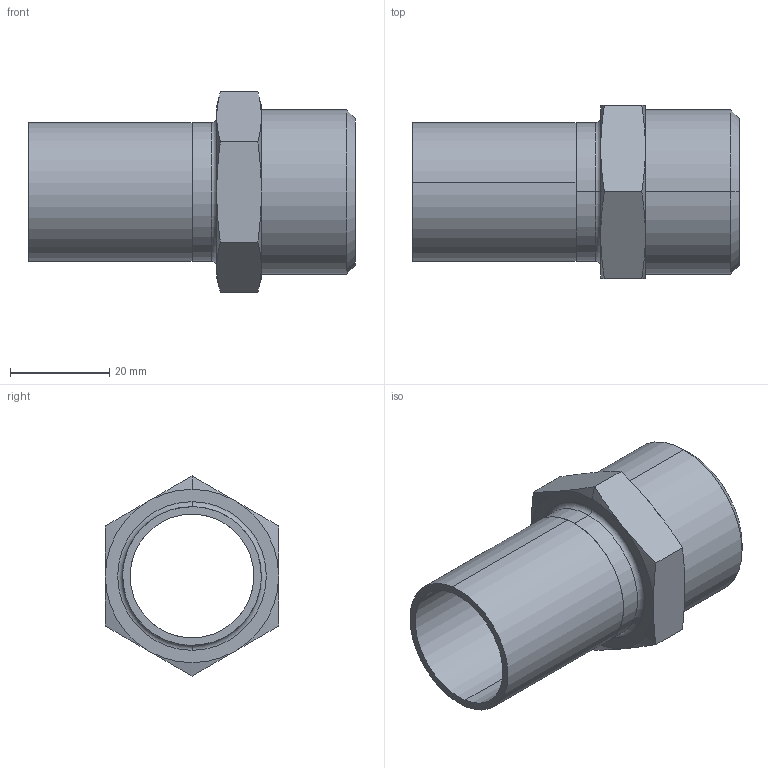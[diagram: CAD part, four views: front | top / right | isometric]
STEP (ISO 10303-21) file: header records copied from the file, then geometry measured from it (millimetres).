
FILE_DESCRIPTION (( 'STEP AP203' ), '1' );
FILE_NAME ('GDA6369.STEP', '2019-07-03T06:17:24', ( '' ), ( '' ), 'SwSTEP 2.0', 'SolidWorks 2015', '' );
FILE_SCHEMA (( 'CONFIG_CONTROL_DESIGN' ));
Length unit declared in the file: millimetre
Products named in the file (3): OD28｡ﾁ1; 眻奪28(酗35); GDA6369
Assembly tree (2 placements, depth 2):
  GDA6369
    OD28｡ﾁ1
    眻奪28(酗35)
Bounding box: 66 x 35 x 40.41 mm (x, y, z)
Volume: 15758.7 mm3; surface area: 12843.1 mm2
Topology: 2 solids, 2 shells, 44 faces, 92 edges, 54 vertices
Faces by surface type: cone 18, cylinder 12, plane 12, torus 2
Entity records: 1549 total; most frequent: CARTESIAN_POINT 315, DIRECTION 210, ORIENTED_EDGE 184, AXIS2_PLACEMENT_3D 93, EDGE_CURVE 92, VERTEX_POINT 54, EDGE_LOOP 50, CIRCLE 44
